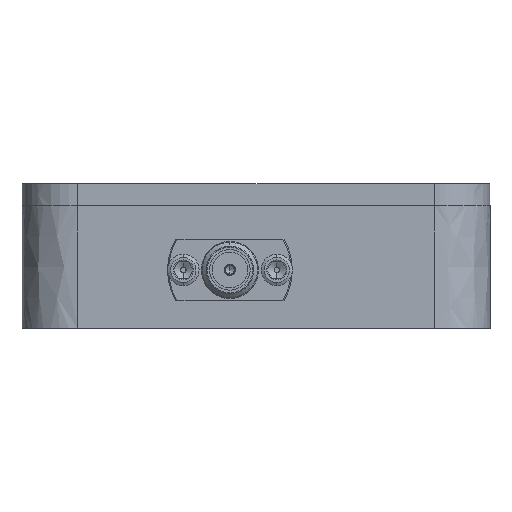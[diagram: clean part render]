
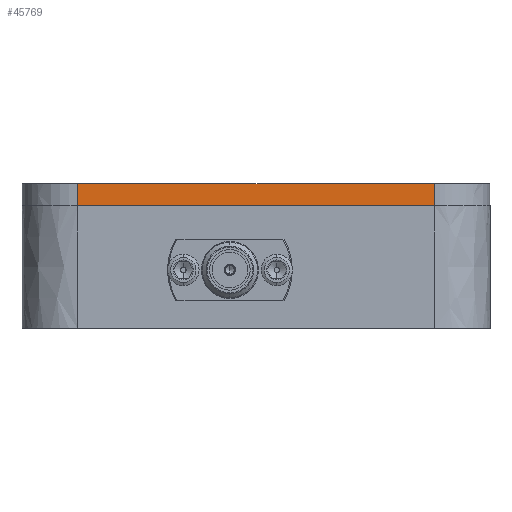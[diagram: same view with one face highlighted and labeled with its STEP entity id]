
A CAD part, left-side view. The second image highlights one B-rep face of the part: STEP entity #45769.
In plain terms, the highlighted face is a extrusion surface.
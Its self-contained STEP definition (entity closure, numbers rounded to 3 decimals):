
#43756 = PLANE('',#43757);
#43757 = AXIS2_PLACEMENT_3D('',#43758,#43759,#43760);
#43758 = CARTESIAN_POINT('',(22.225,22.225,13.97));
#43759 = DIRECTION('',(-0.,-0.,-1.));
#43760 = DIRECTION('',(-1.,0.,0.));
#45122 = VERTEX_POINT('',#45123);
#45123 = CARTESIAN_POINT('',(-4.445,42.545,13.97));
#45139 = SURFACE_OF_LINEAR_EXTRUSION('',#45140,#45144);
#45140 = ( BOUNDED_CURVE() B_SPLINE_CURVE(2,(#45141,#45142,#45143),
.UNSPECIFIED.,.F.,.F.) B_SPLINE_CURVE_WITH_KNOTS((3,3),(0.,1.),
.PIECEWISE_BEZIER_KNOTS.) CURVE() GEOMETRIC_REPRESENTATION_ITEM() 
RATIONAL_B_SPLINE_CURVE((1.,0.707,1.)) REPRESENTATION_ITEM('') 
  );
#45141 = CARTESIAN_POINT('',(-4.445,42.545,13.97));
#45142 = CARTESIAN_POINT('',(-4.445,48.895,13.97));
#45143 = CARTESIAN_POINT('',(1.905,48.895,13.97));
#45144 = VECTOR('',#45145,1.);
#45145 = DIRECTION('',(-0.,-0.,-1.));
#45295 = VERTEX_POINT('',#45296);
#45296 = CARTESIAN_POINT('',(-4.445,1.905,13.97));
#45310 = SURFACE_OF_LINEAR_EXTRUSION('',#45311,#45315);
#45311 = ( BOUNDED_CURVE() B_SPLINE_CURVE(2,(#45312,#45313,#45314),
.UNSPECIFIED.,.F.,.F.) B_SPLINE_CURVE_WITH_KNOTS((3,3),(0.,1.),
.PIECEWISE_BEZIER_KNOTS.) CURVE() GEOMETRIC_REPRESENTATION_ITEM() 
RATIONAL_B_SPLINE_CURVE((1.,0.707,1.)) REPRESENTATION_ITEM('') 
  );
#45312 = CARTESIAN_POINT('',(1.905,-4.445,13.97));
#45313 = CARTESIAN_POINT('',(-4.445,-4.445,13.97));
#45314 = CARTESIAN_POINT('',(-4.445,1.905,13.97));
#45315 = VECTOR('',#45316,1.);
#45316 = DIRECTION('',(-0.,-0.,-1.));
#45324 = EDGE_CURVE('',#45295,#45122,#45325,.T.);
#45325 = SURFACE_CURVE('',#45326,(#45329,#45335),.PCURVE_S1.);
#45326 = B_SPLINE_CURVE_WITH_KNOTS('',1,(#45327,#45328),.UNSPECIFIED.,
  .F.,.F.,(2,2),(0.,1.),.PIECEWISE_BEZIER_KNOTS.);
#45327 = CARTESIAN_POINT('',(-4.445,1.905,13.97));
#45328 = CARTESIAN_POINT('',(-4.445,42.545,13.97));
#45329 = PCURVE('',#43756,#45330);
#45330 = DEFINITIONAL_REPRESENTATION('',(#45331),#45334);
#45331 = B_SPLINE_CURVE_WITH_KNOTS('',1,(#45332,#45333),.UNSPECIFIED.,
  .F.,.F.,(2,2),(0.,1.),.PIECEWISE_BEZIER_KNOTS.);
#45332 = CARTESIAN_POINT('',(26.67,-20.32));
#45333 = CARTESIAN_POINT('',(26.67,20.32));
#45334 = ( GEOMETRIC_REPRESENTATION_CONTEXT(2) 
PARAMETRIC_REPRESENTATION_CONTEXT() REPRESENTATION_CONTEXT('2D SPACE',''
  ) );
#45335 = PCURVE('',#45336,#45342);
#45336 = SURFACE_OF_LINEAR_EXTRUSION('',#45337,#45340);
#45337 = B_SPLINE_CURVE_WITH_KNOTS('',1,(#45338,#45339),.UNSPECIFIED.,
  .F.,.F.,(2,2),(0.,1.),.PIECEWISE_BEZIER_KNOTS.);
#45338 = CARTESIAN_POINT('',(-4.445,1.905,13.97));
#45339 = CARTESIAN_POINT('',(-4.445,42.545,13.97));
#45340 = VECTOR('',#45341,1.);
#45341 = DIRECTION('',(-0.,-0.,-1.));
#45342 = DEFINITIONAL_REPRESENTATION('',(#45343),#45347);
#45343 = LINE('',#45344,#45345);
#45344 = CARTESIAN_POINT('',(0.,0.));
#45345 = VECTOR('',#45346,1.);
#45346 = DIRECTION('',(1.,0.));
#45347 = ( GEOMETRIC_REPRESENTATION_CONTEXT(2) 
PARAMETRIC_REPRESENTATION_CONTEXT() REPRESENTATION_CONTEXT('2D SPACE',''
  ) );
#45697 = EDGE_CURVE('',#45122,#45698,#45700,.T.);
#45698 = VERTEX_POINT('',#45699);
#45699 = CARTESIAN_POINT('',(-4.445,42.545,16.51));
#45700 = SURFACE_CURVE('',#45701,(#45705,#45712),.PCURVE_S1.);
#45701 = LINE('',#45702,#45703);
#45702 = CARTESIAN_POINT('',(-4.445,42.545,13.97));
#45703 = VECTOR('',#45704,1.);
#45704 = DIRECTION('',(0.,0.,1.));
#45705 = PCURVE('',#45139,#45706);
#45706 = DEFINITIONAL_REPRESENTATION('',(#45707),#45711);
#45707 = LINE('',#45708,#45709);
#45708 = CARTESIAN_POINT('',(0.,0.));
#45709 = VECTOR('',#45710,1.);
#45710 = DIRECTION('',(0.,-1.));
#45711 = ( GEOMETRIC_REPRESENTATION_CONTEXT(2) 
PARAMETRIC_REPRESENTATION_CONTEXT() REPRESENTATION_CONTEXT('2D SPACE',''
  ) );
#45712 = PCURVE('',#45336,#45713);
#45713 = DEFINITIONAL_REPRESENTATION('',(#45714),#45718);
#45714 = LINE('',#45715,#45716);
#45715 = CARTESIAN_POINT('',(1.,0.));
#45716 = VECTOR('',#45717,1.);
#45717 = DIRECTION('',(0.,-1.));
#45718 = ( GEOMETRIC_REPRESENTATION_CONTEXT(2) 
PARAMETRIC_REPRESENTATION_CONTEXT() REPRESENTATION_CONTEXT('2D SPACE',''
  ) );
#45736 = PLANE('',#45737);
#45737 = AXIS2_PLACEMENT_3D('',#45738,#45739,#45740);
#45738 = CARTESIAN_POINT('',(22.225,22.225,16.51));
#45739 = DIRECTION('',(-0.,-0.,-1.));
#45740 = DIRECTION('',(-1.,0.,0.));
#45769 = ADVANCED_FACE('',(#45770),#45336,.F.);
#45770 = FACE_BOUND('',#45771,.F.);
#45771 = EDGE_LOOP('',(#45772,#45795,#45814,#45815));
#45772 = ORIENTED_EDGE('',*,*,#45773,.T.);
#45773 = EDGE_CURVE('',#45295,#45774,#45776,.T.);
#45774 = VERTEX_POINT('',#45775);
#45775 = CARTESIAN_POINT('',(-4.445,1.905,16.51));
#45776 = SURFACE_CURVE('',#45777,(#45781,#45788),.PCURVE_S1.);
#45777 = LINE('',#45778,#45779);
#45778 = CARTESIAN_POINT('',(-4.445,1.905,13.97));
#45779 = VECTOR('',#45780,1.);
#45780 = DIRECTION('',(0.,0.,1.));
#45781 = PCURVE('',#45336,#45782);
#45782 = DEFINITIONAL_REPRESENTATION('',(#45783),#45787);
#45783 = LINE('',#45784,#45785);
#45784 = CARTESIAN_POINT('',(0.,0.));
#45785 = VECTOR('',#45786,1.);
#45786 = DIRECTION('',(0.,-1.));
#45787 = ( GEOMETRIC_REPRESENTATION_CONTEXT(2) 
PARAMETRIC_REPRESENTATION_CONTEXT() REPRESENTATION_CONTEXT('2D SPACE',''
  ) );
#45788 = PCURVE('',#45310,#45789);
#45789 = DEFINITIONAL_REPRESENTATION('',(#45790),#45794);
#45790 = LINE('',#45791,#45792);
#45791 = CARTESIAN_POINT('',(1.,0.));
#45792 = VECTOR('',#45793,1.);
#45793 = DIRECTION('',(0.,-1.));
#45794 = ( GEOMETRIC_REPRESENTATION_CONTEXT(2) 
PARAMETRIC_REPRESENTATION_CONTEXT() REPRESENTATION_CONTEXT('2D SPACE',''
  ) );
#45795 = ORIENTED_EDGE('',*,*,#45796,.T.);
#45796 = EDGE_CURVE('',#45774,#45698,#45797,.T.);
#45797 = SURFACE_CURVE('',#45798,(#45801,#45808),.PCURVE_S1.);
#45798 = B_SPLINE_CURVE_WITH_KNOTS('',1,(#45799,#45800),.UNSPECIFIED.,
  .F.,.F.,(2,2),(0.,1.),.PIECEWISE_BEZIER_KNOTS.);
#45799 = CARTESIAN_POINT('',(-4.445,1.905,16.51));
#45800 = CARTESIAN_POINT('',(-4.445,42.545,16.51));
#45801 = PCURVE('',#45336,#45802);
#45802 = DEFINITIONAL_REPRESENTATION('',(#45803),#45807);
#45803 = LINE('',#45804,#45805);
#45804 = CARTESIAN_POINT('',(0.,-2.54));
#45805 = VECTOR('',#45806,1.);
#45806 = DIRECTION('',(1.,0.));
#45807 = ( GEOMETRIC_REPRESENTATION_CONTEXT(2) 
PARAMETRIC_REPRESENTATION_CONTEXT() REPRESENTATION_CONTEXT('2D SPACE',''
  ) );
#45808 = PCURVE('',#45736,#45809);
#45809 = DEFINITIONAL_REPRESENTATION('',(#45810),#45813);
#45810 = B_SPLINE_CURVE_WITH_KNOTS('',1,(#45811,#45812),.UNSPECIFIED.,
  .F.,.F.,(2,2),(0.,1.),.PIECEWISE_BEZIER_KNOTS.);
#45811 = CARTESIAN_POINT('',(26.67,-20.32));
#45812 = CARTESIAN_POINT('',(26.67,20.32));
#45813 = ( GEOMETRIC_REPRESENTATION_CONTEXT(2) 
PARAMETRIC_REPRESENTATION_CONTEXT() REPRESENTATION_CONTEXT('2D SPACE',''
  ) );
#45814 = ORIENTED_EDGE('',*,*,#45697,.F.);
#45815 = ORIENTED_EDGE('',*,*,#45324,.F.);
